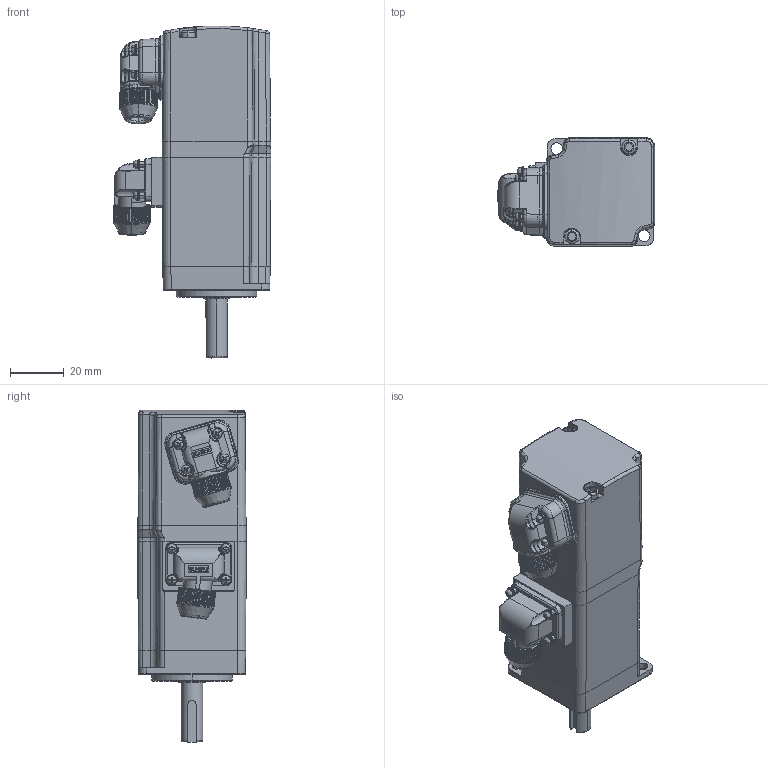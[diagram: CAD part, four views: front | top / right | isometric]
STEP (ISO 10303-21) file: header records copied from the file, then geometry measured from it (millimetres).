
FILE_DESCRIPTION((''),'2;1');
FILE_NAME('101','2017-05-26T',('Administrator'),(''),'PRO/ENGINEER BY PARAMETRIC TECHNOLOGY CORPORATION, 2010280','PRO/ENGINEER BY PARAMETRIC TECHNOLOGY CORPORATION, 2010280','');
FILE_SCHEMA(('CONFIG_CONTROL_DESIGN'));
Products named in the file (1): 101
Bounding box: 58.74 x 40.5 x 123.69 mm (x, y, z)
Volume: 158396.2 mm3; surface area: 32810.1 mm2
Topology: 12 solids, 51 shells, 4098 faces, 10495 edges, 6443 vertices
Faces by surface type: plane 2103, cylinder 944, bspline 388, cone 364, torus 127, sphere 96, extrusion 72, revolution 4
Entity records: 149352 total; most frequent: CARTESIAN_POINT 56013, ORIENTED_EDGE 20744, DIRECTION 17079, EDGE_CURVE 10387, VERTEX_POINT 6443, VECTOR 6109, LINE 6037, AXIS2_PLACEMENT_3D 5483
